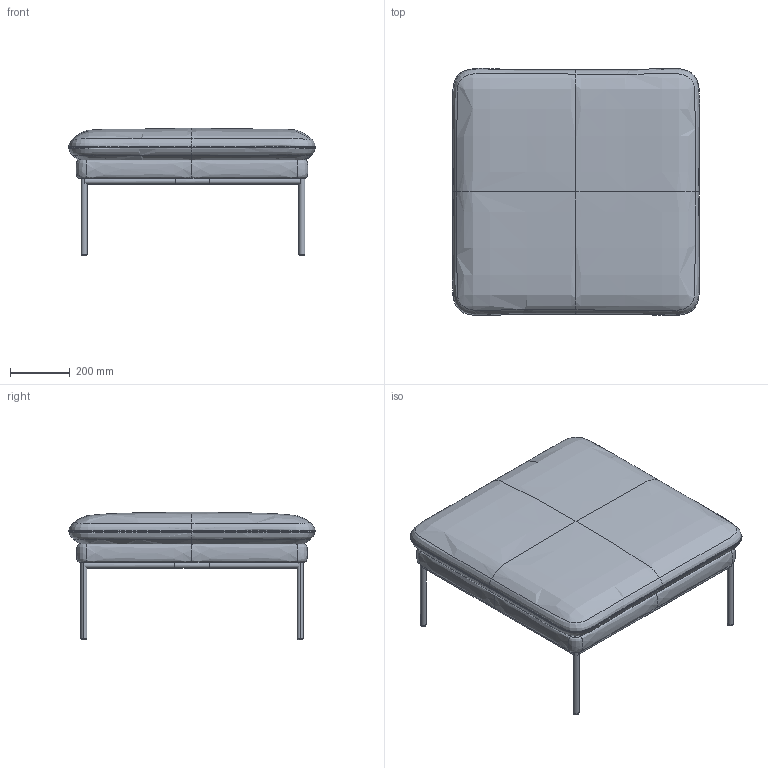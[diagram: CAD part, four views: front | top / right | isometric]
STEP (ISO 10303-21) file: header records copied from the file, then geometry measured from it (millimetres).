
FILE_DESCRIPTION(/* description */ (''),/* implementation_level */ '2;1');
FILE_NAME(/* name */ 'Turn_Pouf_3D',/* time_stamp */ '2021-05-03T14:10:58+02:00',/* author */ (''),/* organization */ (''),/* preprocessor_version */ 'ST-DEVELOPER v16.5',/* originating_system */ '',/* authorisation */ '');
FILE_SCHEMA (('CONFIG_CONTROL_DESIGN'));
Length unit declared in the file: millimetre
Products named in the file (1): Document
Bounding box: 829.17 x 827.92 x 427.17 mm (x, y, z)
Volume: 35781501.8 mm3; surface area: 3175308 mm2
Topology: 8 solids, 34 shells, 128 faces, 263 edges, 177 vertices
Faces by surface type: bspline 66, plane 38, cylinder 24
Entity records: 22333 total; most frequent: CARTESIAN_POINT 20543, ORIENTED_EDGE 452, EDGE_CURVE 262, VERTEX_POINT 176, ADVANCED_FACE 128, FACE_OUTER_BOUND 128, EDGE_LOOP 128, B_SPLINE_CURVE_WITH_KNOTS 119
